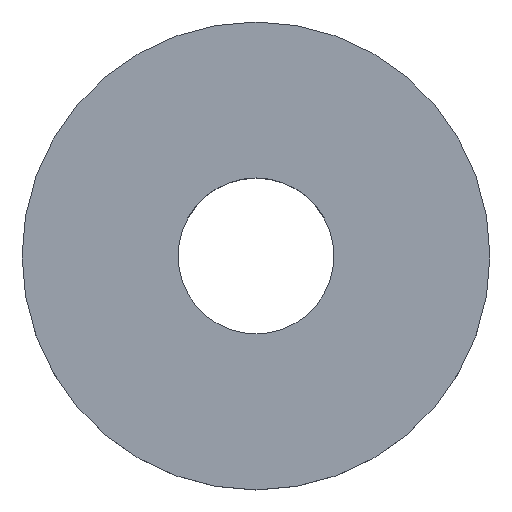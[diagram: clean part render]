
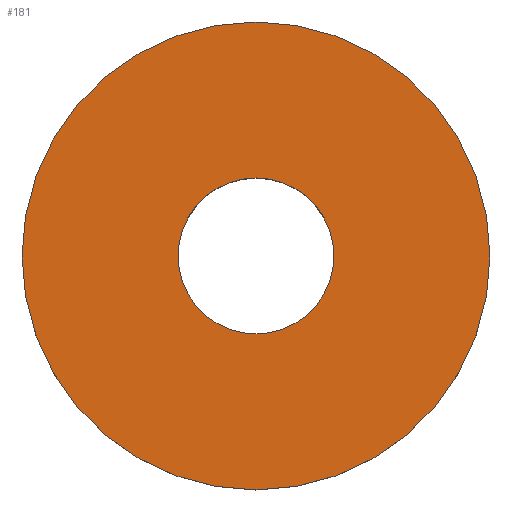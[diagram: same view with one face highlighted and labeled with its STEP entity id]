
A CAD part, top view. The second image highlights one B-rep face of the part: STEP entity #181.
In plain terms, the highlighted planar face has unit normal (0, 0, 1).
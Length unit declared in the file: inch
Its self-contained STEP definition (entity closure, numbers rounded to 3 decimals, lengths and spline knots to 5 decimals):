
#147=CARTESIAN_POINT('',(1.125,0.0,0.0));
#148=VERTEX_POINT('',#147);
#149=CARTESIAN_POINT('',(0.0,0.0,0.0));
#150=DIRECTION('',(0.0,0.0,1.0));
#151=DIRECTION('',(1.0,0.0,0.0));
#152=AXIS2_PLACEMENT_3D('',#149,#150,#151);
#153=CIRCLE('',#152,1.125);
#154=EDGE_CURVE('',#148,#148,#153,.T.);
#162=CARTESIAN_POINT('',(0.75,0.0,0.0));
#163=DIRECTION('',(0.0,0.0,1.0));
#164=DIRECTION('',(1.0,0.0,0.0));
#165=AXIS2_PLACEMENT_3D('',#162,#163,#164);
#166=PLANE('',#165);
#167=ORIENTED_EDGE('',*,*,#154,.T.);
#168=EDGE_LOOP('',(#167));
#169=FACE_OUTER_BOUND('',#168,.T.);
#170=CARTESIAN_POINT('',(0.375,0.0,0.0));
#171=VERTEX_POINT('',#170);
#172=CARTESIAN_POINT('',(0.0,0.0,0.0));
#173=DIRECTION('',(0.0,0.0,1.0));
#174=DIRECTION('',(1.0,0.0,0.0));
#175=AXIS2_PLACEMENT_3D('',#172,#173,#174);
#176=CIRCLE('',#175,0.375);
#177=EDGE_CURVE('',#171,#171,#176,.T.);
#178=ORIENTED_EDGE('',*,*,#177,.F.);
#179=EDGE_LOOP('',(#178));
#180=FACE_BOUND('',#179,.T.);
#181=ADVANCED_FACE('',(#169,#180),#166,.T.);
